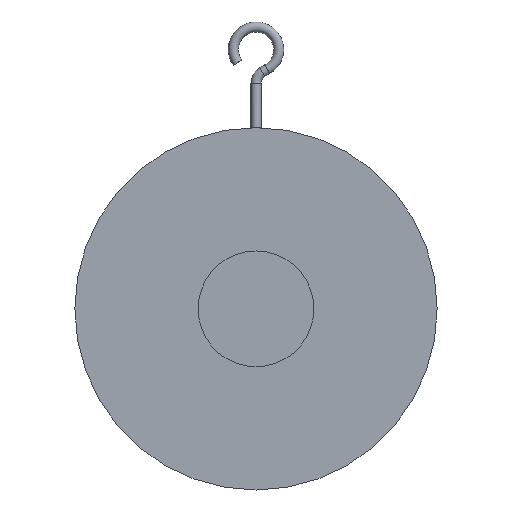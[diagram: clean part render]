
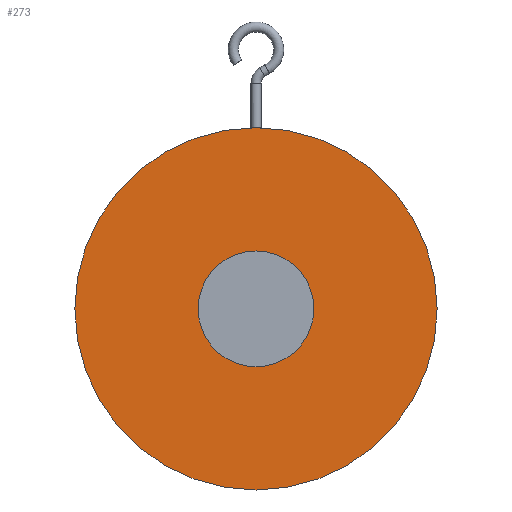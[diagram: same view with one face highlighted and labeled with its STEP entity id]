
A CAD part, front view. The second image highlights one B-rep face of the part: STEP entity #273.
In plain terms, the highlighted planar face has unit normal (0, -1, 0).
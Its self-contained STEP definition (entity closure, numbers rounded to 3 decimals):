
#273=ADVANCED_FACE('',(#525,#527),#529,.T.);
#525=FACE_BOUND('',#526,.T.);
#526=EDGE_LOOP('',(#702));
#527=FACE_BOUND('',#528,.T.);
#528=EDGE_LOOP('',(#703));
#529=PLANE('',#530);
#530=AXIS2_PLACEMENT_3D('',#531,#532,#533);
#531=CARTESIAN_POINT('',(0.,-8.,0.));
#532=DIRECTION('',(0.,-1.,0.));
#533=DIRECTION('',(0.,0.,1.));
#702=ORIENTED_EDGE('',*,*,#772,.F.);
#703=ORIENTED_EDGE('',*,*,#774,.T.);
#772=EDGE_CURVE('',#877,#877,#878,.T.);
#774=EDGE_CURVE('',#881,#881,#882,.T.);
#877=VERTEX_POINT('',#1322);
#878=CIRCLE('',#1323,72.);
#881=VERTEX_POINT('',#1332);
#882=CIRCLE('',#1333,23.);
#1322=CARTESIAN_POINT('',(0.,-8.,72.));
#1323=AXIS2_PLACEMENT_3D('',#1324,#1325,#1326);
#1324=CARTESIAN_POINT('',(0.,-8.,0.));
#1325=DIRECTION('',(0.,1.,0.));
#1326=DIRECTION('',(0.,0.,1.));
#1332=CARTESIAN_POINT('',(0.,-8.,23.));
#1333=AXIS2_PLACEMENT_3D('',#1334,#1335,#1336);
#1334=CARTESIAN_POINT('',(0.,-8.,0.));
#1335=DIRECTION('',(0.,1.,0.));
#1336=DIRECTION('',(0.,0.,1.));
